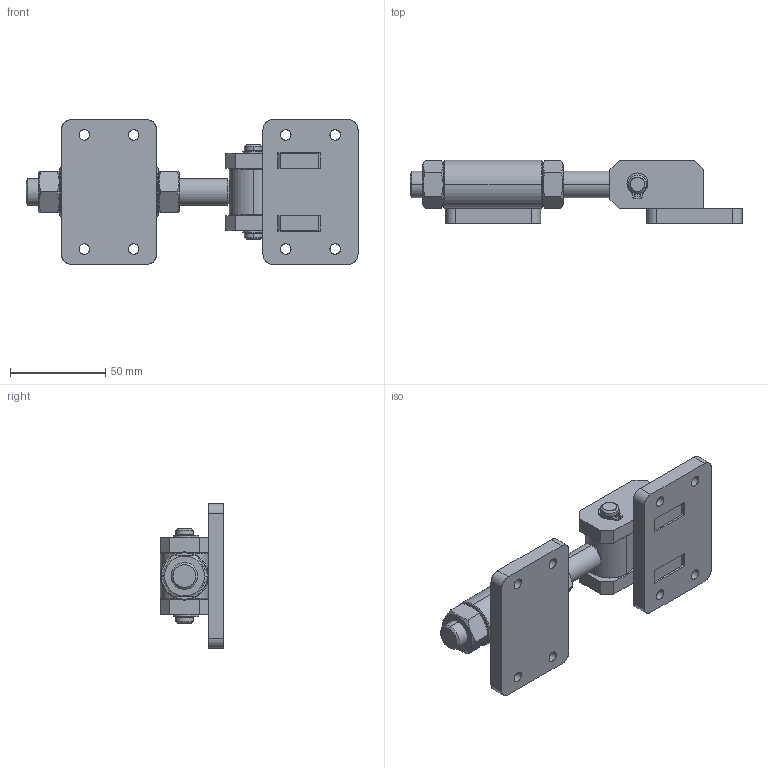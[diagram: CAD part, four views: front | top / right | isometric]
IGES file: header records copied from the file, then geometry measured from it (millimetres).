
Start section: SolidWorks IGES file using analytic representation for surfaces
Global section: file name: C:\Projetos\Grampos\Dobradiças\KFD-14\KFD-14.igs; native system: SolidWorks 2011; preprocessor: SolidWorks 2011; author: Usuario; date: 110512.122103; units: millimetre
Bounding box: 174.7 x 33.34 x 76 mm (x, y, z)
Surface area: 49386.9 mm2 (no closed solid volume)
Topology: 0 solids, 0 shells, 212 faces, 3252 edges, 3252 vertices
Faces by surface type: revolution 114, bspline 98
